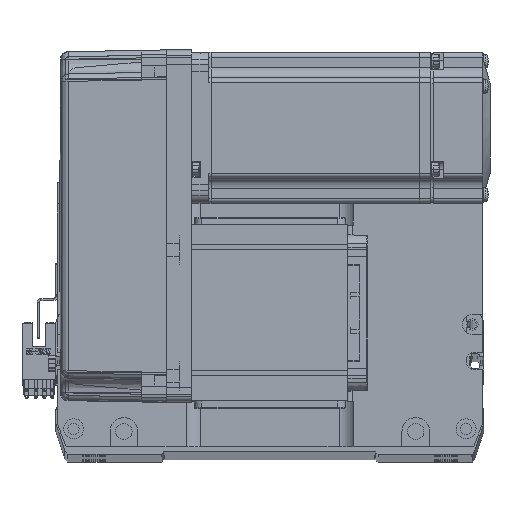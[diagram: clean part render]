
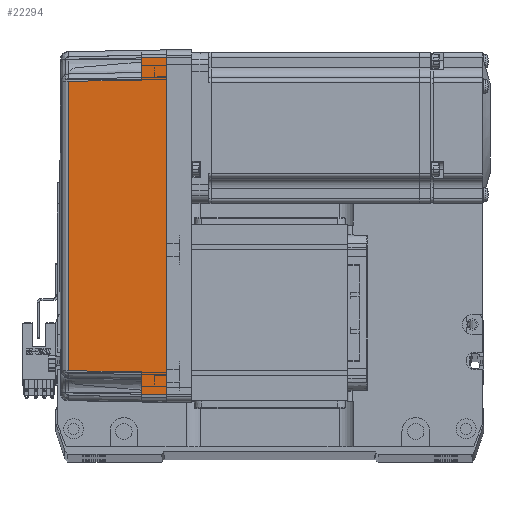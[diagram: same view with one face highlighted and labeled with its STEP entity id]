
A CAD part, top view. The second image highlights one B-rep face of the part: STEP entity #22294.
In plain terms, the highlighted planar face has unit normal (-0.018, 0, 1) as drawn and (0, 1, 0.017) by its records, which use the part's own axes.
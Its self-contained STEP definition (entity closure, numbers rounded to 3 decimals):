
#195 = DIRECTION ( 'NONE',  ( 1., 0., 0. ) ) ;
#853 = ORIENTED_EDGE ( 'NONE', *, *, #61093, .T. ) ;
#1164 = CARTESIAN_POINT ( 'NONE',  ( -57.495, 35.32, 38.985 ) ) ;
#1771 = DIRECTION ( 'NONE',  ( 0., 1., 0.017 ) ) ;
#2330 = ORIENTED_EDGE ( 'NONE', *, *, #35887, .T. ) ;
#2944 = AXIS2_PLACEMENT_3D ( 'NONE', #53515, #1771, #47921 ) ;
#3086 = VECTOR ( 'NONE', #33423, 1000. ) ;
#3247 = LINE ( 'NONE', #16512, #63956 ) ;
#4733 = EDGE_CURVE ( 'NONE', #24604, #36978, #37819, .T. ) ;
#5363 = CARTESIAN_POINT ( 'NONE',  ( 70., 35.825, 10. ) ) ;
#6333 = DIRECTION ( 'NONE',  ( 0.017, -0.017, 1. ) ) ;
#6718 = DIRECTION ( 'NONE',  ( 0.017, -0.017, 1. ) ) ;
#7258 = FACE_OUTER_BOUND ( 'NONE', #23532, .T. ) ;
#8746 = VERTEX_POINT ( 'NONE', #36031 ) ;
#10303 = CARTESIAN_POINT ( 'NONE',  ( 57.495, 35.32, 38.985 ) ) ;
#10686 = VECTOR ( 'NONE', #195, 1000. ) ;
#14650 = VERTEX_POINT ( 'NONE', #1164 ) ;
#15625 = ORIENTED_EDGE ( 'NONE', *, *, #40416, .T. ) ;
#15882 = LINE ( 'NONE', #23362, #3086 ) ;
#16512 = CARTESIAN_POINT ( 'NONE',  ( 0., 36., 0. ) ) ;
#17674 = CARTESIAN_POINT ( 'NONE',  ( -57.495, 35.32, 38.985 ) ) ;
#18644 = CARTESIAN_POINT ( 'NONE',  ( 67., 36., 0. ) ) ;
#19626 = LINE ( 'NONE', #10303, #39592 ) ;
#20768 = ORIENTED_EDGE ( 'NONE', *, *, #4733, .T. ) ;
#22294 = ADVANCED_FACE ( 'NONE', ( #7258 ), #52639, .T. ) ;
#22425 = DIRECTION ( 'NONE',  ( 1., 0., 0. ) ) ;
#22656 = LINE ( 'NONE', #31994, #40229 ) ;
#22718 = B_SPLINE_CURVE_WITH_KNOTS ( 'NONE', 3,
 ( #17674, #38413, #63670, #63889 ),
 .UNSPECIFIED., .F., .F.,
 ( 4, 4 ),
 ( 0., 1. ),
 .UNSPECIFIED. ) ;
#23362 = CARTESIAN_POINT ( 'NONE',  ( 67.001, 36.001, -0.052 ) ) ;
#23532 = EDGE_LOOP ( 'NONE', ( #42177, #20768, #2330, #46806, #15625, #853, #36242, #38462 ) ) ;
#24604 = VERTEX_POINT ( 'NONE', #64202 ) ;
#24926 = CARTESIAN_POINT ( 'NONE',  ( -67., 36., 0. ) ) ;
#26195 = CARTESIAN_POINT ( 'NONE',  ( 57.495, 35.32, 38.985 ) ) ;
#26557 = EDGE_CURVE ( 'NONE', #29414, #63536, #15882, .T. ) ;
#28439 = LINE ( 'NONE', #47514, #45198 ) ;
#29414 = VERTEX_POINT ( 'NONE', #18644 ) ;
#31994 = CARTESIAN_POINT ( 'NONE',  ( -58., 35.825, 10. ) ) ;
#33423 = DIRECTION ( 'NONE',  ( -0.017, -0.017, 1. ) ) ;
#34514 = EDGE_CURVE ( 'NONE', #62453, #24604, #28439, .T. ) ;
#35887 = EDGE_CURVE ( 'NONE', #36978, #14650, #22656, .T. ) ;
#36031 = CARTESIAN_POINT ( 'NONE',  ( 58., 35.825, 10. ) ) ;
#36242 = ORIENTED_EDGE ( 'NONE', *, *, #26557, .F. ) ;
#36978 = VERTEX_POINT ( 'NONE', #47666 ) ;
#37819 = LINE ( 'NONE', #5363, #10686 ) ;
#37899 = DIRECTION ( 'NONE',  ( 1., 0., 0. ) ) ;
#38413 = CARTESIAN_POINT ( 'NONE',  ( -19.165, 35.316, 39.181 ) ) ;
#38462 = ORIENTED_EDGE ( 'NONE', *, *, #66244, .F. ) ;
#38768 = EDGE_CURVE ( 'NONE', #14650, #50521, #22718, .T. ) ;
#39592 = VECTOR ( 'NONE', #55990, 1000. ) ;
#40229 = VECTOR ( 'NONE', #6333, 1000. ) ;
#40416 = EDGE_CURVE ( 'NONE', #50521, #8746, #19626, .T. ) ;
#42177 = ORIENTED_EDGE ( 'NONE', *, *, #34514, .T. ) ;
#45198 = VECTOR ( 'NONE', #6718, 1000. ) ;
#46806 = ORIENTED_EDGE ( 'NONE', *, *, #38768, .T. ) ;
#47195 = CARTESIAN_POINT ( 'NONE',  ( 70., 35.825, 10. ) ) ;
#47514 = CARTESIAN_POINT ( 'NONE',  ( -67., 36., 0. ) ) ;
#47666 = CARTESIAN_POINT ( 'NONE',  ( -58., 35.825, 10. ) ) ;
#47921 = DIRECTION ( 'NONE',  ( 0., -0.017, 1. ) ) ;
#50521 = VERTEX_POINT ( 'NONE', #26195 ) ;
#52639 = PLANE ( 'NONE',  #2944 ) ;
#53515 = CARTESIAN_POINT ( 'NONE',  ( 70., 36., 0. ) ) ;
#55990 = DIRECTION ( 'NONE',  ( 0.017, 0.017, -1. ) ) ;
#59783 = VECTOR ( 'NONE', #22425, 1000. ) ;
#61093 = EDGE_CURVE ( 'NONE', #8746, #63536, #61406, .T. ) ;
#61406 = LINE ( 'NONE', #47195, #59783 ) ;
#62453 = VERTEX_POINT ( 'NONE', #24926 ) ;
#63536 = VERTEX_POINT ( 'NONE', #66291 ) ;
#63670 = CARTESIAN_POINT ( 'NONE',  ( 19.165, 35.316, 39.181 ) ) ;
#63889 = CARTESIAN_POINT ( 'NONE',  ( 57.495, 35.32, 38.985 ) ) ;
#63956 = VECTOR ( 'NONE', #37899, 1000. ) ;
#64202 = CARTESIAN_POINT ( 'NONE',  ( -66.826, 35.825, 10. ) ) ;
#66244 = EDGE_CURVE ( 'NONE', #62453, #29414, #3247, .T. ) ;
#66291 = CARTESIAN_POINT ( 'NONE',  ( 66.826, 35.825, 10. ) ) ;
